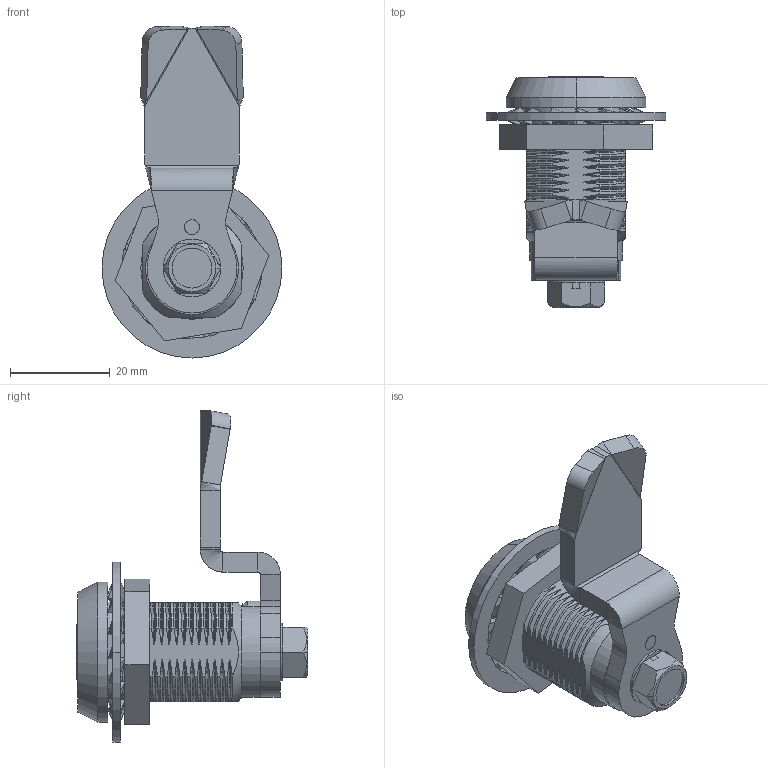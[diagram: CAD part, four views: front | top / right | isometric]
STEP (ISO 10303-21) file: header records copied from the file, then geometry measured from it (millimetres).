
FILE_DESCRIPTION (( 'STEP AP214' ), '1' );
FILE_NAME ('2.M22SD30P-KW8-18CR.STEP', '2010-02-22T14:46:30', ( '£ukaszC' ), ( '' ), 'SwSTEP 2.0', 'SolidWorks 2008', '' );
FILE_SCHEMA (( 'AUTOMOTIVE_DESIGN' ));
Length unit declared in the file: millimetre
Products named in the file (16): Œruba_Domyœlna; Podk³adka sprê¿ysta z¹bkowana wewnêtrznie DIN 6798 J_Domyœlna; 2.M22.06.01.00_Domyœlna; 2.M22SD30.03_Patent; 2.M22SD30.02P_Domyœlna; 2.M22SD30.01P_Z｣OｯENIE; 2.M22SD30P-KW8-18CR; 2.M22SD30.06; 2.M22SD30.05_Domyœlna; 2.M22SD30.04_Domyœlna; 2.M22SD30.10_Domyœlna; 2.M22SD30.09_Domyœlna; 2.M22SD30.08_Domyœlna; 2.M22SD30.07.01_Domyœlna; 2.M22SD30.07_Domyœlna
Assembly tree (15 placements, depth 3):
  2.M22SD30P-KW8-18CR
    2.M22SD30.09_Domyœlna
    2.M22SD30.05_Domyœlna
    2.M22SD30.01P_Z｣OｯENIE
    Podk³adka sprê¿ysta z¹bkowana wewnêtrznie DIN 6798 J_Domyœlna
    2.M22SD30.08_Domyœlna
    2.M22SD30.04_Domyœlna
    2.M22SD30.03_Patent
    2.M22SD30.02P_Domyœlna
    2.M22.06.01.00_Domyœlna
    2.M22SD30.06
    2.M22SD30.07_Domyœlna
      2.M22SD30.07_Domyœlna
      2.M22SD30.07.01_Domyœlna
    2.M22SD30.10_Domyœlna
    Œruba_Domyœlna
Bounding box: 36 x 46.35 x 66.43 mm (x, y, z)
Volume: 17986.9 mm3; surface area: 18516.3 mm2
Topology: 14 solids, 14 shells, 781 faces, 2136 edges, 1388 vertices
Faces by surface type: bspline 266, plane 248, cylinder 212, cone 37, torus 18
Entity records: 128486 total; most frequent: CARTESIAN_POINT 108516, ORIENTED_EDGE 4264, DIRECTION 2662, EDGE_CURVE 2132, VERTEX_POINT 1388, AXIS2_PLACEMENT_3D 903, LINE 856, VECTOR 856
